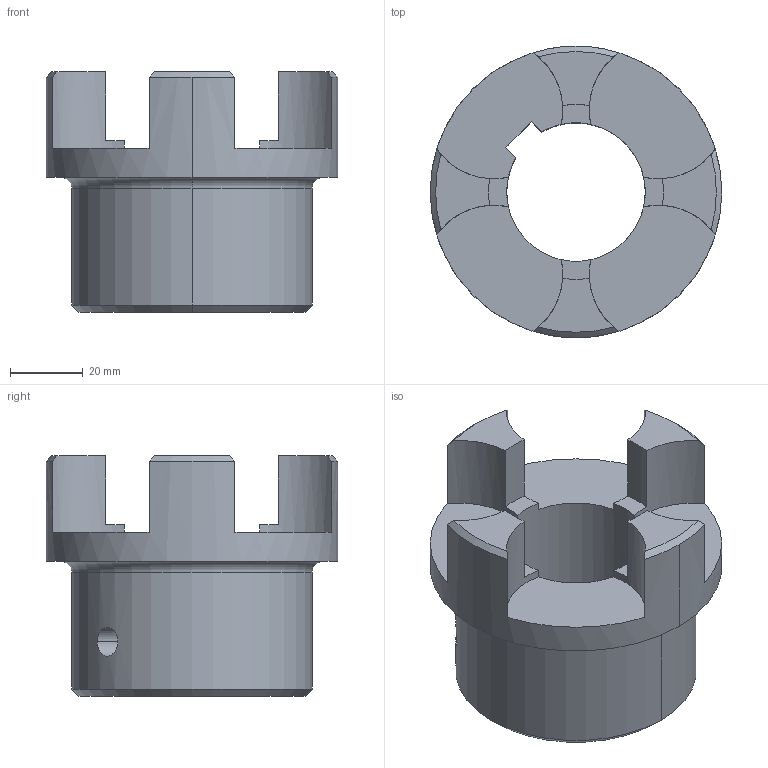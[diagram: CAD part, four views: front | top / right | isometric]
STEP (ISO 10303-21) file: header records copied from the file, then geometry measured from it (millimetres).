
FILE_DESCRIPTION((''),'2;1');
FILE_NAME('020383003800_INT','2021-09-14T14:01:40',('W.Rathmann'),(''),'CREO PARAMETRIC BY PTC INC, 2020044','CREO PARAMETRIC BY PTC INC, 2020044','');
FILE_SCHEMA(('CONFIG_CONTROL_DESIGN'));
Length unit declared in the file: millimetre
Products named in the file (1): 020383003800_INT
Bounding box: 80 x 80 x 66 mm (x, y, z)
Volume: 131302.6 mm3; surface area: 28286.9 mm2
Topology: 1 solids, 1 shells, 44 faces, 130 edges, 96 vertices
Faces by surface type: cylinder 19, plane 17, cone 6, torus 2
Entity records: 1587 total; most frequent: CARTESIAN_POINT 323, DIRECTION 280, ORIENTED_EDGE 244, EDGE_CURVE 122, AXIS2_PLACEMENT_3D 115, VERTEX_POINT 80, CIRCLE 70, VECTOR 50
